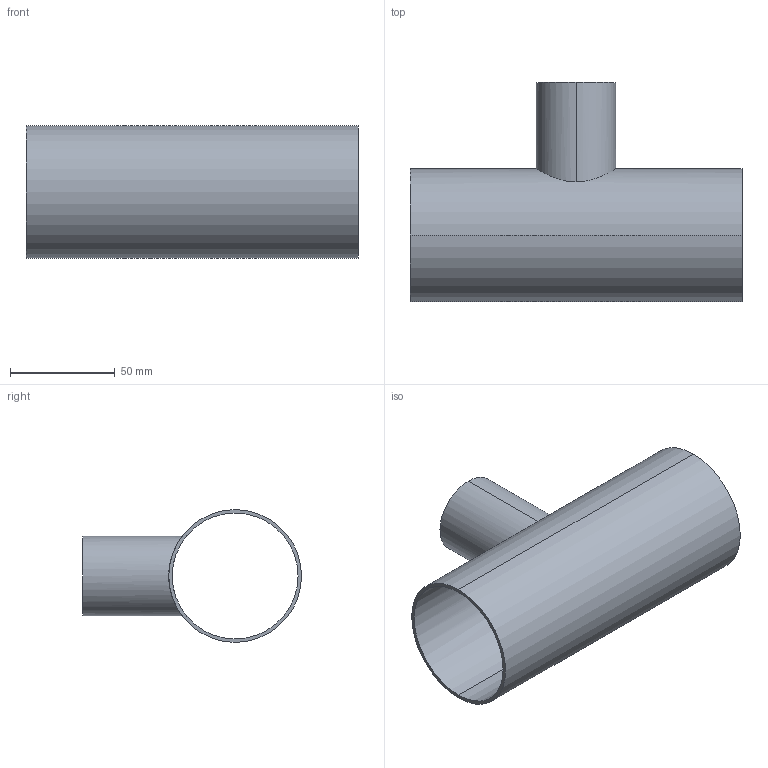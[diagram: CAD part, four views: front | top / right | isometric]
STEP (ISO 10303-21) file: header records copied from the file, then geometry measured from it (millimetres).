
FILE_DESCRIPTION (( 'STEP AP214' ), '1' );
FILE_NAME ('TE7RWWW6L2.5x1.5-...STEP', '2016-05-24T04:18:43', ( 'eran' ), ( '' ), 'SwSTEP 2.0', 'SolidWorks 2016', '' );
FILE_SCHEMA (( 'AUTOMOTIVE_DESIGN' ));
Length unit declared in the file: millimetre
Products named in the file (1): TE7RWWW6L2.5x1.5-..
Bounding box: 158.8 x 104.75 x 63.5 mm (x, y, z)
Volume: 57597 mm3; surface area: 70637.4 mm2
Topology: 1 solids, 1 shells, 11 faces, 24 edges, 16 vertices
Faces by surface type: cylinder 8, plane 3
Entity records: 556 total; most frequent: CARTESIAN_POINT 264, DIRECTION 56, ORIENTED_EDGE 48, AXIS2_PLACEMENT_3D 24, EDGE_CURVE 24, VERTEX_POINT 16, EDGE_LOOP 16, CIRCLE 12
